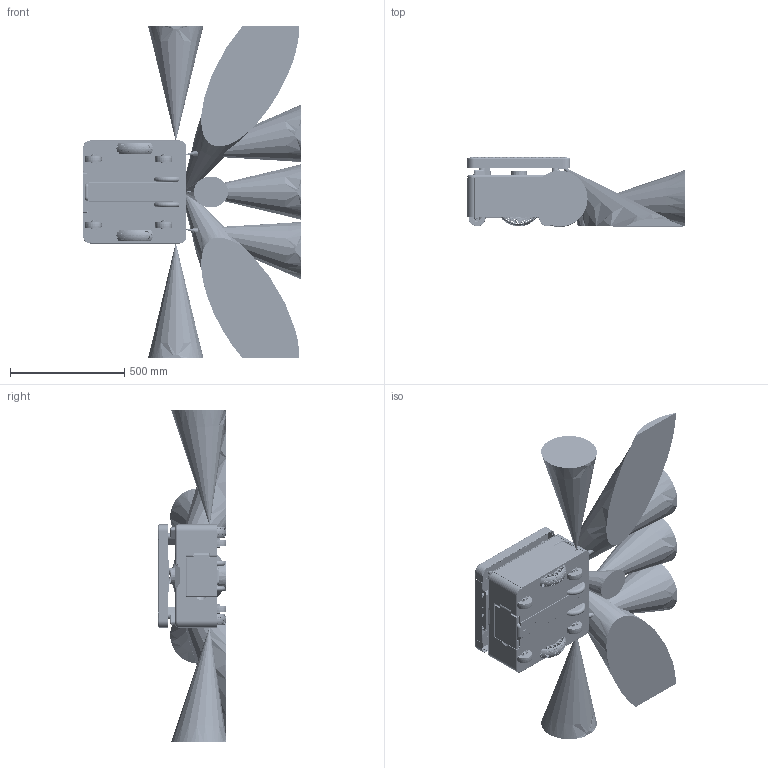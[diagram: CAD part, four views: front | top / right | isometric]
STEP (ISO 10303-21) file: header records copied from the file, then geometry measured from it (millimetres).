
FILE_DESCRIPTION (( 'STEP AP203' ), '1' );
FILE_NAME ('KeiganALI_outline3D_260109.STEP', '2026-01-09T01:41:46', ( '' ), ( '' ), 'SwSTEP 2.0', 'SolidWorks 2024', '' );
FILE_SCHEMA (( 'CONFIG_CONTROL_DESIGN' ));
Products named in the file (7): Cliff detection sensor_1; KeiganALI_outline3D_260109; KeiganALI_outline3D_211227(2); KeiganALI_outline3D_260109(2); 2; Obstacle detection sensor_1; ALi_Body_1
Assembly tree (6 placements, depth 4):
  KeiganALI_outline3D_260109
    KeiganALI_outline3D_260109(2)
      KeiganALI_outline3D_211227(2)
        ALi_Body_1
        Obstacle detection sensor_1
        Cliff detection sensor_1
      2
Bounding box: 950 x 300 x 1450 mm (x, y, z)
Volume: 108643089.7 mm3; surface area: 4551677.4 mm2
Topology: 10 solids, 42 shells, 7288 faces, 18959 edges, 12179 vertices
Faces by surface type: plane 2694, cylinder 2361, torus 1104, bspline 920, cone 170, sphere 39
Entity records: 292593 total; most frequent: CARTESIAN_POINT 122395, ORIENTED_EDGE 37798, DIRECTION 32743, EDGE_CURVE 18899, AXIS2_PLACEMENT_3D 12755, VERTEX_POINT 12179, EDGE_LOOP 8068, ADVANCED_FACE 7288
